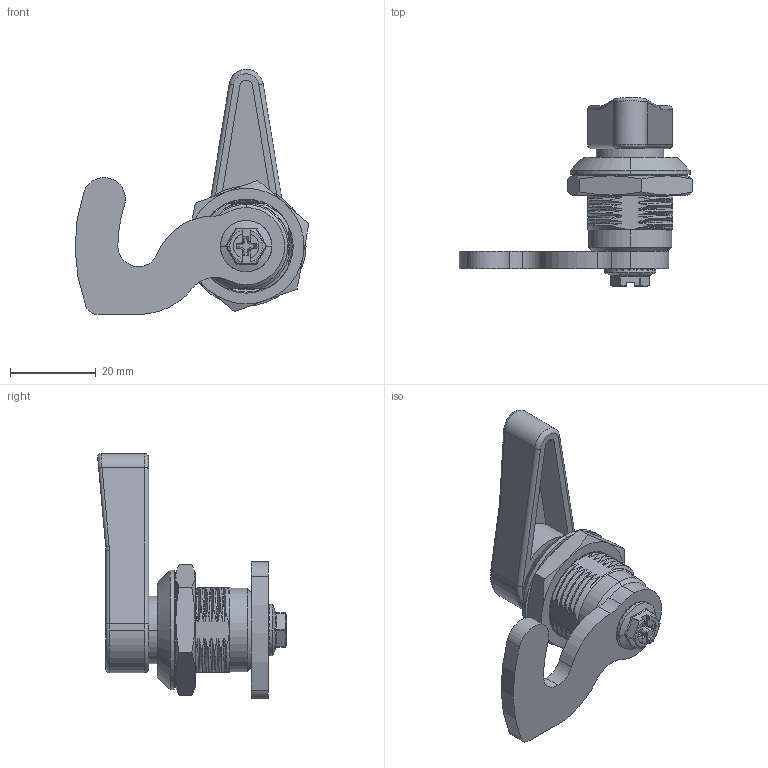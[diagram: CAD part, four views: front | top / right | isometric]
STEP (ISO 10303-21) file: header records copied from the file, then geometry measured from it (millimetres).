
FILE_DESCRIPTION (( 'STEP AP214' ), '1' );
FILE_NAME ('CUYUE.MS714-4.STEP', '2026-06-22T03:06:36', ( '' ), ( '' ), 'SwSTEP 2.0', 'SolidWorks 2020', '' );
FILE_SCHEMA (( 'AUTOMOTIVE_DESIGN' ));
Length unit declared in the file: millimetre
Products named in the file (8): MS705-JIZUO; SW6X8; MS705-CEIDIAN; MS714-4-GANSUAN; MS705-LUOMU; MS714-4-SOUBINZUJIAN_ASM; MS714-4-SOUBIN; CUYUE.MS714-4
Assembly tree (7 placements, depth 3):
  CUYUE.MS714-4
    MS705-JIZUO
    MS714-4-SOUBINZUJIAN_ASM
      MS714-4-SOUBIN
    MS714-4-GANSUAN
    SW6X8
    MS705-CEIDIAN
    MS705-LUOMU
Bounding box: 54.66 x 44.12 x 57.29 mm (x, y, z)
Volume: 18379.7 mm3; surface area: 11681.8 mm2
Topology: 4 solids, 8 shells, 686 faces, 1835 edges, 1076 vertices
Faces by surface type: bspline 318, cylinder 213, plane 121, cone 34
Entity records: 37108 total; most frequent: CARTESIAN_POINT 16263, ORIENTED_EDGE 3470, EDGE_CURVE 1739, DIRECTION 1582, VERTEX_POINT 1076, B_SPLINE_CURVE_WITH_KNOTS 959, UNCERTAINTY_MEASURE_WITH_UNIT 706, EDGE_LOOP 703
